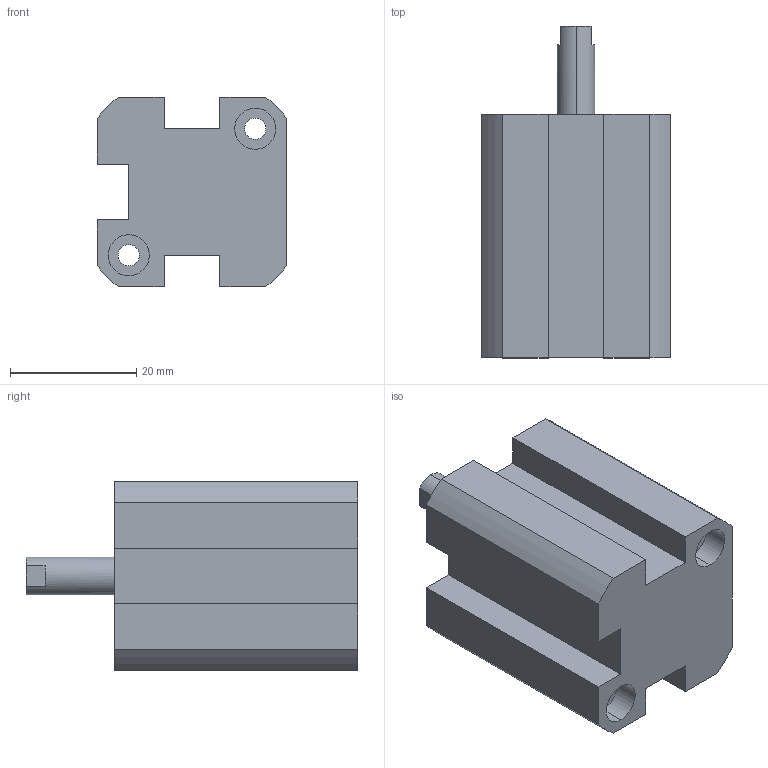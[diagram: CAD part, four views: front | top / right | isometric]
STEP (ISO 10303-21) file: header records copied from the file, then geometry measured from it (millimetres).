
FILE_DESCRIPTION (( 'STEP AP203' ), '1' );
FILE_NAME ('XG#0-16-10.STEP', '2016-05-24T01:29:44', ( '' ), ( '' ), 'SwSTEP 2.0', 'SolidWorks 2014', '' );
FILE_SCHEMA (( 'CONFIG_CONTROL_DESIGN' ));
Length unit declared in the file: millimetre
Products named in the file (1): XG#0-16-10
Bounding box: 30 x 52.5 x 30 mm (x, y, z)
Volume: 27567.8 mm3; surface area: 8579.1 mm2
Topology: 1 solids, 1 shells, 73 faces, 181 edges, 117 vertices
Faces by surface type: cylinder 37, plane 32, cone 4
Entity records: 2251 total; most frequent: DIRECTION 404, CARTESIAN_POINT 368, ORIENTED_EDGE 354, EDGE_CURVE 177, AXIS2_PLACEMENT_3D 153, VERTEX_POINT 117, VECTOR 98, LINE 98
